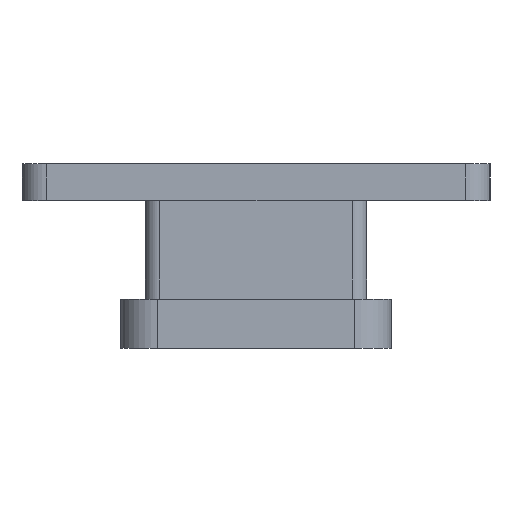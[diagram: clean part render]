
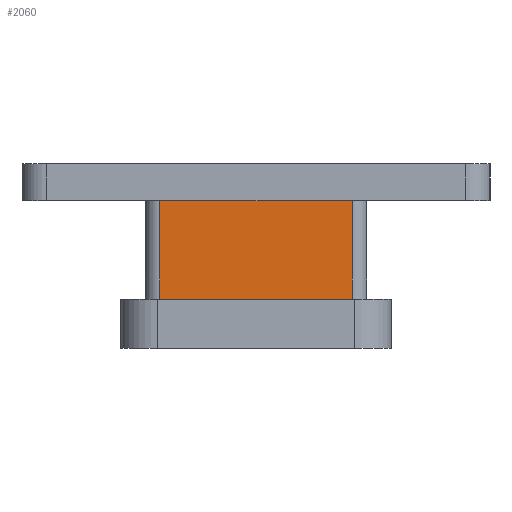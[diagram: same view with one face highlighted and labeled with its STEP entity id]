
A CAD part, left-side view. The second image highlights one B-rep face of the part: STEP entity #2060.
In plain terms, the highlighted planar face has unit normal (-1, 0, 0).
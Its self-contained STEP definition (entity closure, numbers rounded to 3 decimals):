
#2060 = ADVANCED_FACE('',(#2061),#2075,.F.);
#2061 = FACE_BOUND('',#2062,.F.);
#2062 = EDGE_LOOP('',(#2063,#2098,#2126,#2154));
#2063 = ORIENTED_EDGE('',*,*,#2064,.F.);
#2064 = EDGE_CURVE('',#2065,#2067,#2069,.T.);
#2065 = VERTEX_POINT('',#2066);
#2066 = CARTESIAN_POINT('',(-22.,-7.8,12.));
#2067 = VERTEX_POINT('',#2068);
#2068 = CARTESIAN_POINT('',(-22.,7.8,12.));
#2069 = SURFACE_CURVE('',#2070,(#2074,#2086),.PCURVE_S1.);
#2070 = LINE('',#2071,#2072);
#2071 = CARTESIAN_POINT('',(-22.,-9.,12.));
#2072 = VECTOR('',#2073,1.);
#2073 = DIRECTION('',(0.,1.,0.));
#2074 = PCURVE('',#2075,#2080);
#2075 = PLANE('',#2076);
#2076 = AXIS2_PLACEMENT_3D('',#2077,#2078,#2079);
#2077 = CARTESIAN_POINT('',(-22.,-9.,4.));
#2078 = DIRECTION('',(1.,0.,0.));
#2079 = DIRECTION('',(0.,0.,1.));
#2080 = DEFINITIONAL_REPRESENTATION('',(#2081),#2085);
#2081 = LINE('',#2082,#2083);
#2082 = CARTESIAN_POINT('',(8.,0.));
#2083 = VECTOR('',#2084,1.);
#2084 = DIRECTION('',(0.,-1.));
#2085 = ( GEOMETRIC_REPRESENTATION_CONTEXT(2) 
PARAMETRIC_REPRESENTATION_CONTEXT() REPRESENTATION_CONTEXT('2D SPACE',''
  ) );
#2086 = PCURVE('',#2087,#2092);
#2087 = PLANE('',#2088);
#2088 = AXIS2_PLACEMENT_3D('',#2089,#2090,#2091);
#2089 = CARTESIAN_POINT('',(-22.,-9.,12.));
#2090 = DIRECTION('',(0.,0.,1.));
#2091 = DIRECTION('',(1.,0.,0.));
#2092 = DEFINITIONAL_REPRESENTATION('',(#2093),#2097);
#2093 = LINE('',#2094,#2095);
#2094 = CARTESIAN_POINT('',(0.,0.));
#2095 = VECTOR('',#2096,1.);
#2096 = DIRECTION('',(0.,1.));
#2097 = ( GEOMETRIC_REPRESENTATION_CONTEXT(2) 
PARAMETRIC_REPRESENTATION_CONTEXT() REPRESENTATION_CONTEXT('2D SPACE',''
  ) );
#2098 = ORIENTED_EDGE('',*,*,#2099,.F.);
#2099 = EDGE_CURVE('',#2100,#2065,#2102,.T.);
#2100 = VERTEX_POINT('',#2101);
#2101 = CARTESIAN_POINT('',(-22.,-7.8,4.));
#2102 = SURFACE_CURVE('',#2103,(#2107,#2114),.PCURVE_S1.);
#2103 = LINE('',#2104,#2105);
#2104 = CARTESIAN_POINT('',(-22.,-7.8,4.));
#2105 = VECTOR('',#2106,1.);
#2106 = DIRECTION('',(0.,0.,1.));
#2107 = PCURVE('',#2075,#2108);
#2108 = DEFINITIONAL_REPRESENTATION('',(#2109),#2113);
#2109 = LINE('',#2110,#2111);
#2110 = CARTESIAN_POINT('',(0.,-1.2));
#2111 = VECTOR('',#2112,1.);
#2112 = DIRECTION('',(1.,0.));
#2113 = ( GEOMETRIC_REPRESENTATION_CONTEXT(2) 
PARAMETRIC_REPRESENTATION_CONTEXT() REPRESENTATION_CONTEXT('2D SPACE',''
  ) );
#2114 = PCURVE('',#2115,#2120);
#2115 = CYLINDRICAL_SURFACE('',#2116,1.2);
#2116 = AXIS2_PLACEMENT_3D('',#2117,#2118,#2119);
#2117 = CARTESIAN_POINT('',(-20.8,-7.8,4.));
#2118 = DIRECTION('',(0.,0.,1.));
#2119 = DIRECTION('',(-1.,-0.,0.));
#2120 = DEFINITIONAL_REPRESENTATION('',(#2121),#2125);
#2121 = LINE('',#2122,#2123);
#2122 = CARTESIAN_POINT('',(0.,0.));
#2123 = VECTOR('',#2124,1.);
#2124 = DIRECTION('',(0.,1.));
#2125 = ( GEOMETRIC_REPRESENTATION_CONTEXT(2) 
PARAMETRIC_REPRESENTATION_CONTEXT() REPRESENTATION_CONTEXT('2D SPACE',''
  ) );
#2126 = ORIENTED_EDGE('',*,*,#2127,.T.);
#2127 = EDGE_CURVE('',#2100,#2128,#2130,.T.);
#2128 = VERTEX_POINT('',#2129);
#2129 = CARTESIAN_POINT('',(-22.,7.8,4.));
#2130 = SURFACE_CURVE('',#2131,(#2135,#2142),.PCURVE_S1.);
#2131 = LINE('',#2132,#2133);
#2132 = CARTESIAN_POINT('',(-22.,-9.,4.));
#2133 = VECTOR('',#2134,1.);
#2134 = DIRECTION('',(0.,1.,0.));
#2135 = PCURVE('',#2075,#2136);
#2136 = DEFINITIONAL_REPRESENTATION('',(#2137),#2141);
#2137 = LINE('',#2138,#2139);
#2138 = CARTESIAN_POINT('',(0.,0.));
#2139 = VECTOR('',#2140,1.);
#2140 = DIRECTION('',(0.,-1.));
#2141 = ( GEOMETRIC_REPRESENTATION_CONTEXT(2) 
PARAMETRIC_REPRESENTATION_CONTEXT() REPRESENTATION_CONTEXT('2D SPACE',''
  ) );
#2142 = PCURVE('',#2143,#2148);
#2143 = PLANE('',#2144);
#2144 = AXIS2_PLACEMENT_3D('',#2145,#2146,#2147);
#2145 = CARTESIAN_POINT('',(-22.,-9.,4.));
#2146 = DIRECTION('',(0.,0.,1.));
#2147 = DIRECTION('',(1.,0.,0.));
#2148 = DEFINITIONAL_REPRESENTATION('',(#2149),#2153);
#2149 = LINE('',#2150,#2151);
#2150 = CARTESIAN_POINT('',(0.,0.));
#2151 = VECTOR('',#2152,1.);
#2152 = DIRECTION('',(0.,1.));
#2153 = ( GEOMETRIC_REPRESENTATION_CONTEXT(2) 
PARAMETRIC_REPRESENTATION_CONTEXT() REPRESENTATION_CONTEXT('2D SPACE',''
  ) );
#2154 = ORIENTED_EDGE('',*,*,#2155,.T.);
#2155 = EDGE_CURVE('',#2128,#2067,#2156,.T.);
#2156 = SURFACE_CURVE('',#2157,(#2161,#2168),.PCURVE_S1.);
#2157 = LINE('',#2158,#2159);
#2158 = CARTESIAN_POINT('',(-22.,7.8,4.));
#2159 = VECTOR('',#2160,1.);
#2160 = DIRECTION('',(0.,0.,1.));
#2161 = PCURVE('',#2075,#2162);
#2162 = DEFINITIONAL_REPRESENTATION('',(#2163),#2167);
#2163 = LINE('',#2164,#2165);
#2164 = CARTESIAN_POINT('',(0.,-16.8));
#2165 = VECTOR('',#2166,1.);
#2166 = DIRECTION('',(1.,0.));
#2167 = ( GEOMETRIC_REPRESENTATION_CONTEXT(2) 
PARAMETRIC_REPRESENTATION_CONTEXT() REPRESENTATION_CONTEXT('2D SPACE',''
  ) );
#2168 = PCURVE('',#2169,#2174);
#2169 = CYLINDRICAL_SURFACE('',#2170,1.2);
#2170 = AXIS2_PLACEMENT_3D('',#2171,#2172,#2173);
#2171 = CARTESIAN_POINT('',(-20.8,7.8,4.));
#2172 = DIRECTION('',(0.,0.,1.));
#2173 = DIRECTION('',(-1.,-0.,0.));
#2174 = DEFINITIONAL_REPRESENTATION('',(#2175),#2179);
#2175 = LINE('',#2176,#2177);
#2176 = CARTESIAN_POINT('',(-0.,0.));
#2177 = VECTOR('',#2178,1.);
#2178 = DIRECTION('',(-0.,1.));
#2179 = ( GEOMETRIC_REPRESENTATION_CONTEXT(2) 
PARAMETRIC_REPRESENTATION_CONTEXT() REPRESENTATION_CONTEXT('2D SPACE',''
  ) );
